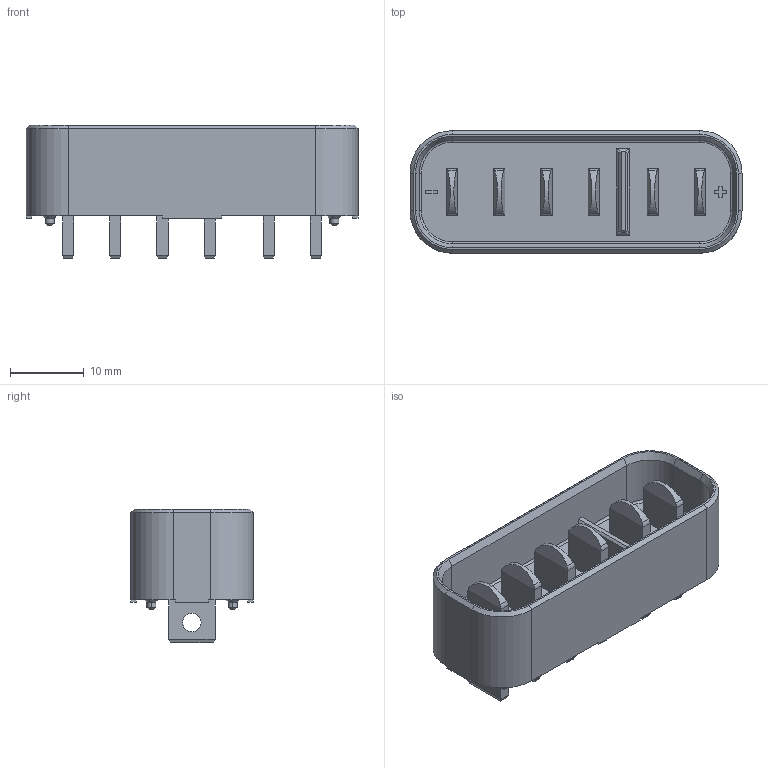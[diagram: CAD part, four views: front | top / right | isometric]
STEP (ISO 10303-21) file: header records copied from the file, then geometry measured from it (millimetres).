
FILE_DESCRIPTION((''),'2;1');
FILE_NAME('6P-4P9S_MALE_BTB_ASM','2024-11-20T',('c3952'),(''),'CREO PARAMETRIC BY PTC INC, 2014500','CREO PARAMETRIC BY PTC INC, 2014500','');
FILE_SCHEMA(('AUTOMOTIVE_DESIGN { 1 0 10303 214 1 1 1 1 }'));
Length unit declared in the file: millimetre
Products named in the file (3): T1-6P-4P9S-MALE; T5_DA_M-1; 6P-4P9S_MALE_BTB_ASM
Assembly tree (7 placements, depth 2):
  6P-4P9S_MALE_BTB_ASM
    T1-6P-4P9S-MALE
    T5_DA_M-1  x6
Bounding box: 45 x 16.6 x 18.1 mm (x, y, z)
Volume: 4473.7 mm3; surface area: 5748.9 mm2
Topology: 7 solids, 7 shells, 534 faces, 1431 edges, 920 vertices
Faces by surface type: plane 360, cylinder 146, cone 24, torus 4
Entity records: 10965 total; most frequent: CARTESIAN_POINT 1541, ORIENTED_EDGE 1462, DIRECTION 1433, PRESENTATION_STYLE_ASSIGNMENT 733, STYLED_ITEM 733, CURVE_STYLE 731, EDGE_CURVE 731, VECTOR 597
